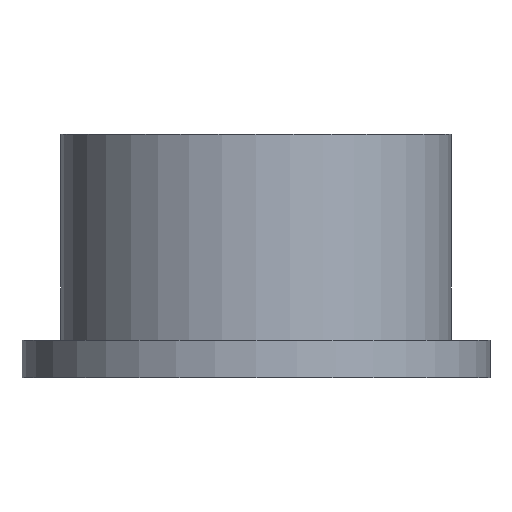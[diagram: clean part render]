
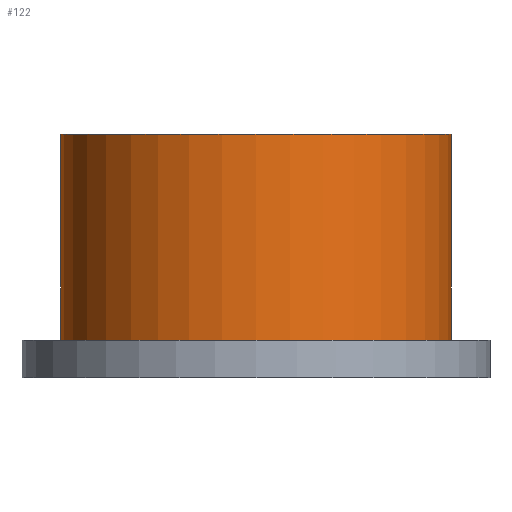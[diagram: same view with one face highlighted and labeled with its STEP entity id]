
A CAD part, front view. The second image highlights one B-rep face of the part: STEP entity #122.
In plain terms, the highlighted cylindrical face has radius 10.427 mm (diameter 20.854 mm), a full revolution.
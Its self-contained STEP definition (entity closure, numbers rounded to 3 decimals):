
#7 = ORIENTED_EDGE ( 'NONE', *, *, #196, .F. ) ;
#11 = FACE_OUTER_BOUND ( 'NONE', #198, .T. ) ;
#24 = AXIS2_PLACEMENT_3D ( 'NONE', #39, #40, #43 ) ;
#28 = EDGE_LOOP ( 'NONE', ( #7 ) ) ;
#30 = AXIS2_PLACEMENT_3D ( 'NONE', #161, #182, #136 ) ;
#39 = CARTESIAN_POINT ( 'NONE',  ( 0., 0., 13. ) ) ;
#40 = DIRECTION ( 'NONE',  ( 0., 0., -1. ) ) ;
#43 = DIRECTION ( 'NONE',  ( -1., 0., 0. ) ) ;
#47 = CARTESIAN_POINT ( 'NONE',  ( -10.427, 0., 13. ) ) ;
#48 = CARTESIAN_POINT ( 'NONE',  ( -10.427, 0., 2. ) ) ;
#65 = VERTEX_POINT ( 'NONE', #47 ) ;
#83 = ORIENTED_EDGE ( 'NONE', *, *, #231, .T. ) ;
#85 = CIRCLE ( 'NONE', #24, 10.427 ) ;
#107 = VERTEX_POINT ( 'NONE', #48 ) ;
#122 = ADVANCED_FACE ( 'NONE', ( #11, #152 ), #194, .T. ) ;
#127 = AXIS2_PLACEMENT_3D ( 'NONE', #138, #160, #158 ) ;
#136 = DIRECTION ( 'NONE',  ( -1., 0., 0. ) ) ;
#138 = CARTESIAN_POINT ( 'NONE',  ( 0., 0., 2. ) ) ;
#152 = FACE_OUTER_BOUND ( 'NONE', #28, .T. ) ;
#158 = DIRECTION ( 'NONE',  ( -1., 0., 0. ) ) ;
#160 = DIRECTION ( 'NONE',  ( 0., 0., -1. ) ) ;
#161 = CARTESIAN_POINT ( 'NONE',  ( 0., 0., 0. ) ) ;
#182 = DIRECTION ( 'NONE',  ( 0., 0., -1. ) ) ;
#194 = CYLINDRICAL_SURFACE ( 'NONE', #30, 10.427 ) ;
#196 = EDGE_CURVE ( 'NONE', #107, #107, #210, .T. ) ;
#198 = EDGE_LOOP ( 'NONE', ( #83 ) ) ;
#210 = CIRCLE ( 'NONE', #127, 10.427 ) ;
#231 = EDGE_CURVE ( 'NONE', #65, #65, #85, .T. ) ;
